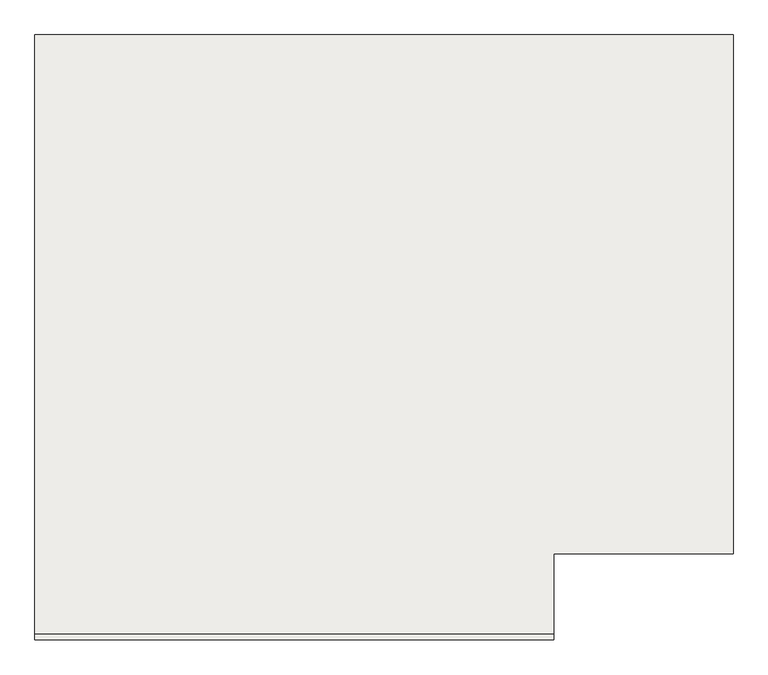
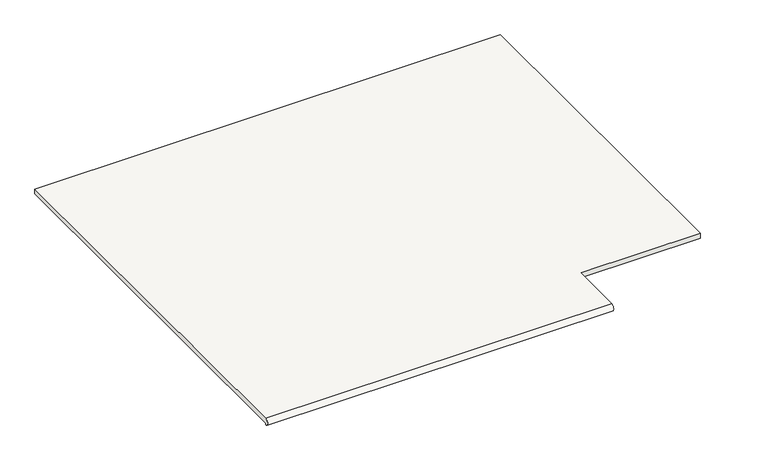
"""IFC4 building model written with IfcOpenShell, lengths in millimetres: slab geometry, 一体型ではない踊り場."""

from ifc_helpers import new_model, si_unit, frame, origin, place, context, project, spatial, circle_curve, source, transform, mapped, element, save
from ifc_brep_helpers import plane_surface, cylinder_surface, advanced_brep


def slab_593adf1e(model_context):
    return source(origin(), model_context, "Body", "AdvancedBrep", [
        advanced_brep(
        [(-3742.8880564, 1126.0382733, 1620.0), (-3742.8880564, 1126.0382733, 1640.0), (-4742.8880564, 1126.0382733, 1640.0), (-4742.8880564, 1126.0382733, 1620.0), (-4742.8880564, 1126.0382733, 1625.0), (-3742.8880564, 1126.0382733, 1625.0), (-3742.8880564, 1281.5382733, 1640.0), (-3397.3880564, 1281.5382733, 1640.0), (-3397.3880564, 2281.5382733, 1640.0), (-4742.8880564, 2281.5382733, 1640.0), (-3742.8880564, 1281.5382733, 1625.0), (-4742.8880564, 2281.5382733, 1625.0), (-3397.3880564, 2281.5382733, 1625.0), (-3397.3880564, 1281.5382733, 1625.0)],
        [
            (0, 1, circle_curve(frame((-3742.8880564, 1126.0382733, 1630.0), z_axis=(-1.0, 0.0, 0.0), x_axis=(0.0, 1.0, 0.0)), 10.0)),
            (1, 2),
            (2, 3, circle_curve(frame((-4742.8880564, 1126.0382733, 1630.0), z_axis=(1.0, 0.0, 0.0), x_axis=(0.0, 1.0, 0.0)), 10.0)),
            (3, 0),
            (3, 4),
            (4, 5),
            (5, 0),
            (1, 6),
            (6, 7),
            (7, 8),
            (8, 9),
            (9, 2),
            (10, 5),
            (4, 11),
            (11, 12),
            (12, 13),
            (13, 10),
            (10, 6),
            (13, 7),
            (12, 8),
            (11, 9),
        ],
        [
            cylinder_surface(frame((-3742.8880564, 1126.0382733, 1630.0), z_axis=(1.0, 0.0, 0.0), x_axis=(0.0, 1.0, 0.0)), 10.0),
            plane_surface(frame((-3742.8880564, 1126.0382733, 1620.0), z_axis=(0.0, 1.0, 0.0), x_axis=(-1.0, 0.0, 0.0))),
            plane_surface(frame((-4742.8880564, 1126.0382733, 1640.0), z_axis=(0.0, 0.0, 1.0), x_axis=(1.0, 0.0, 0.0))),
            plane_surface(frame((-4742.8880564, 1126.0382733, 1625.0), z_axis=(0.0, 0.0, -1.0), x_axis=(-1.0, 0.0, 0.0))),
            plane_surface(frame((-3742.8880564, 1126.0382733, 1640.0), z_axis=(1.0, 0.0, 0.0), x_axis=(0.0, 0.0, -1.0))),
            plane_surface(frame((-3742.8880564, 1281.5382733, 1640.0), z_axis=(0.0, -1.0, 0.0), x_axis=(0.0, 0.0, -1.0))),
            plane_surface(frame((-3397.3880564, 1281.5382733, 1640.0), z_axis=(1.0, 0.0, 0.0), x_axis=(0.0, 0.0, -1.0))),
            plane_surface(frame((-3397.3880564, 2281.5382733, 1640.0), z_axis=(0.0, 1.0, 0.0), x_axis=(0.0, 0.0, -1.0))),
            plane_surface(frame((-4742.8880564, 2281.5382733, 1640.0), z_axis=(-1.0, 0.0, 0.0), x_axis=(0.0, 0.0, -1.0))),
        ],
        [
            (0, [[1, 2, 3, 4]]),
            (1, [[-4, 5, 6, 7]]),
            (2, [[8, 9, 10, 11, 12, -2]]),
            (3, [[13, -6, 14, 15, 16, 17]]),
            (4, [[-8, -1, -7, -13, 18]]),
            (5, [[-9, -18, -17, 19]]),
            (6, [[-10, -19, -16, 20]]),
            (7, [[-11, -20, -15, 21]]),
            (8, [[-12, -21, -14, -5, -3]]),
        ],
    ),
    ])


if __name__ == "__main__":
    model = new_model("IFC4")
    model_context = context("Model", 3, world=origin())
    ifc_project = project(units=[si_unit("LENGTHUNIT", "METRE", prefix="MILLI")], contexts=[model_context])
    site = spatial("IfcSite", under=ifc_project)
    building = spatial("IfcBuilding", under=site)
    placement = place(None, origin())
    slab_shape = slab_593adf1e(model_context)
    element("IfcSlab", 1, ObjectType="一体型ではない踊り場", at=placement, inside=building, context=model_context, shape_type="MappedRepresentation", body=[
        mapped(slab_shape, transform((0.0, 0.0, 0.0), x_axis=(1.0, 0.0, 0.0), y_axis=(0.0, 1.0, 0.0), z_axis=(0.0, 0.0, 1.0))),
    ])
    save(model, "model.ifc")
